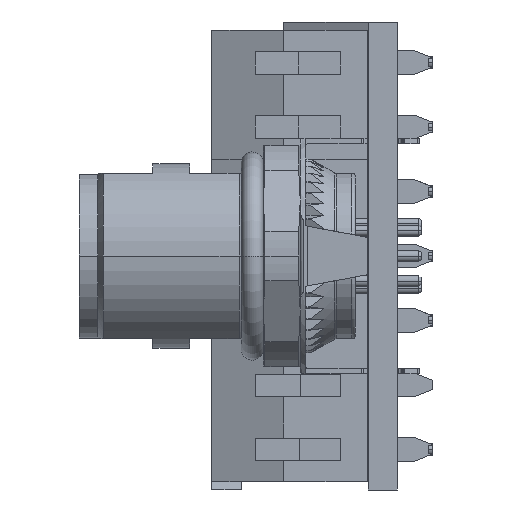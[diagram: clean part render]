
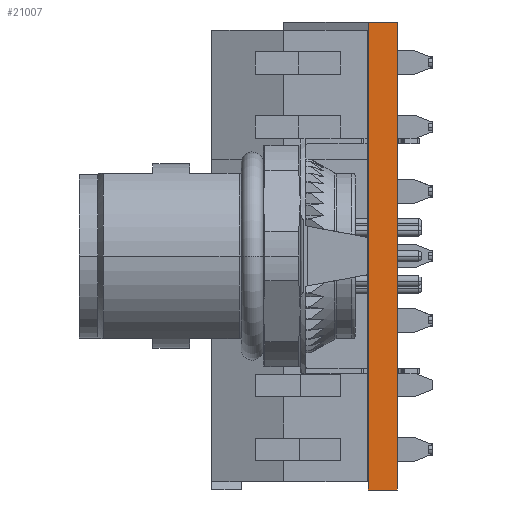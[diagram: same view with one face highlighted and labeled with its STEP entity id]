
A CAD part, left-side view. The second image highlights one B-rep face of the part: STEP entity #21007.
In plain terms, the highlighted planar face has unit normal (-1, 0, 0).
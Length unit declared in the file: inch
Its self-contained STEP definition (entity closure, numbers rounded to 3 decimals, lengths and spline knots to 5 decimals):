
#18 = CARTESIAN_POINT ( 'NONE',  ( 23.07, 0., -6.32 ) ) ;
#225 = AXIS2_PLACEMENT_3D ( 'NONE', #105439, #65043, #64682 ) ;
#7447 = LINE ( 'NONE', #14783, #37520 ) ;
#10151 = CARTESIAN_POINT ( 'NONE',  ( 23.07, -0.062, -7.32 ) ) ;
#12265 = DIRECTION ( 'NONE',  ( 0., 0., -1. ) ) ;
#14260 = EDGE_CURVE ( 'NONE', #99354, #107504, #73809, .T. ) ;
#14783 = CARTESIAN_POINT ( 'NONE',  ( 23.07, -0.062, -6.32 ) ) ;
#20919 = PLANE ( 'NONE',  #225 ) ;
#21007 = ADVANCED_FACE ( 'NONE', ( #73567 ), #20919, .F. ) ;
#25994 = ORIENTED_EDGE ( 'NONE', *, *, #14260, .F. ) ;
#37520 = VECTOR ( 'NONE', #40721, 39.37008 ) ;
#37588 = EDGE_CURVE ( 'NONE', #99572, #99354, #38938, .T. ) ;
#38938 = LINE ( 'NONE', #103755, #91076 ) ;
#40721 = DIRECTION ( 'NONE',  ( 0., 1., 0. ) ) ;
#45152 = CARTESIAN_POINT ( 'NONE',  ( 23.07, -0.062, -6.32 ) ) ;
#52008 = DIRECTION ( 'NONE',  ( 0., 0., -1. ) ) ;
#64682 = DIRECTION ( 'NONE',  ( 0., 0., -1. ) ) ;
#65043 = DIRECTION ( 'NONE',  ( 1., 0., 0. ) ) ;
#67784 = VERTEX_POINT ( 'NONE', #18 ) ;
#68002 = ORIENTED_EDGE ( 'NONE', *, *, #37588, .F. ) ;
#73567 = FACE_OUTER_BOUND ( 'NONE', #102532, .T. ) ;
#73809 = LINE ( 'NONE', #10151, #76410 ) ;
#75482 = EDGE_CURVE ( 'NONE', #99572, #67784, #7447, .T. ) ;
#76410 = VECTOR ( 'NONE', #85988, 39.37008 ) ;
#77518 = VECTOR ( 'NONE', #52008, 39.37008 ) ;
#81369 = LINE ( 'NONE', #93590, #77518 ) ;
#85988 = DIRECTION ( 'NONE',  ( 0., 1., 0. ) ) ;
#88151 = ORIENTED_EDGE ( 'NONE', *, *, #75482, .T. ) ;
#91076 = VECTOR ( 'NONE', #12265, 39.37008 ) ;
#93590 = CARTESIAN_POINT ( 'NONE',  ( 23.07, 0., 0. ) ) ;
#95232 = ORIENTED_EDGE ( 'NONE', *, *, #95289, .T. ) ;
#95289 = EDGE_CURVE ( 'NONE', #67784, #107504, #81369, .T. ) ;
#99354 = VERTEX_POINT ( 'NONE', #104966 ) ;
#99572 = VERTEX_POINT ( 'NONE', #45152 ) ;
#102532 = EDGE_LOOP ( 'NONE', ( #95232, #25994, #68002, #88151 ) ) ;
#103755 = CARTESIAN_POINT ( 'NONE',  ( 23.07, -0.062, 0. ) ) ;
#104966 = CARTESIAN_POINT ( 'NONE',  ( 23.07, -0.062, -7.32 ) ) ;
#105439 = CARTESIAN_POINT ( 'NONE',  ( 23.07, -0.062, 0. ) ) ;
#106396 = CARTESIAN_POINT ( 'NONE',  ( 23.07, 0., -7.32 ) ) ;
#107504 = VERTEX_POINT ( 'NONE', #106396 ) ;
